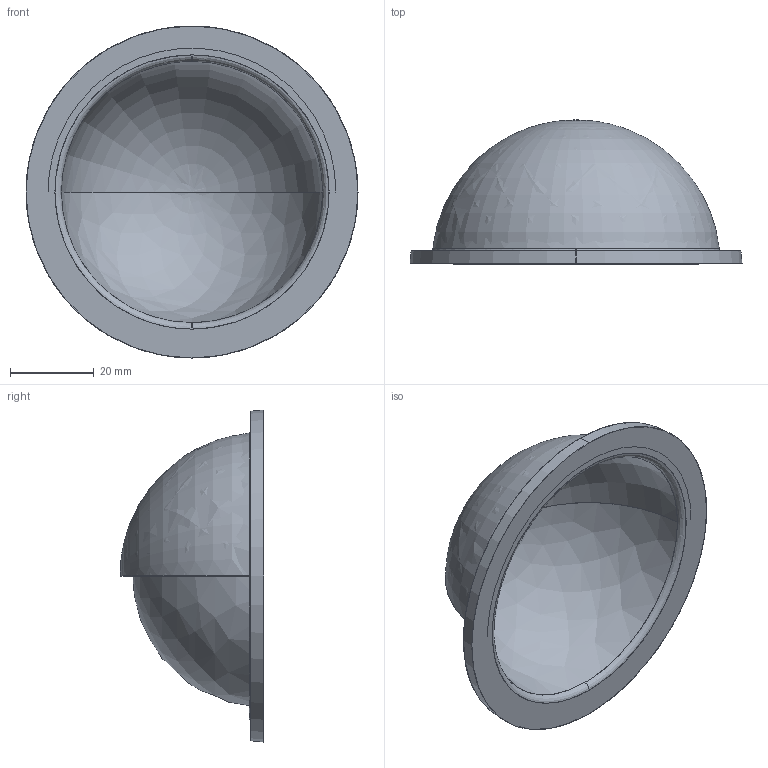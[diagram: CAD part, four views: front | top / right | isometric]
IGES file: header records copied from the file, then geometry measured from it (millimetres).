
Start section: SolidWorks IGES file using analytic representation for surfaces
Global section: file name: C:\Users\Achilles\Dropbox\BR-Engineering\PROJECTS\WTE3\MODELS\DEVELOPMENT\WTE3-P-DOME-R1\WTE3-P-DOME-R1.IGS; native system: SolidWorks 2016; preprocessor: SolidWorks 2016; author: Achilles; date: 181016.155133; units: millimetre
Bounding box: 79.25 x 34.35 x 79.25 mm (x, y, z)
Surface area: 16913.9 mm2 (no closed solid volume)
Topology: 0 solids, 0 shells, 12 faces, 304 edges, 302 vertices
Faces by surface type: bspline 6, revolution 6
